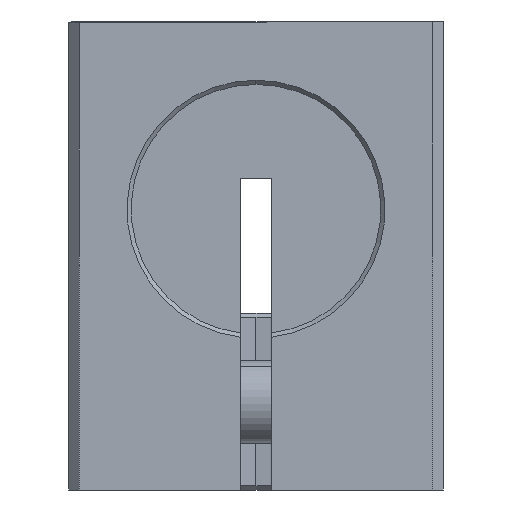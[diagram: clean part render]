
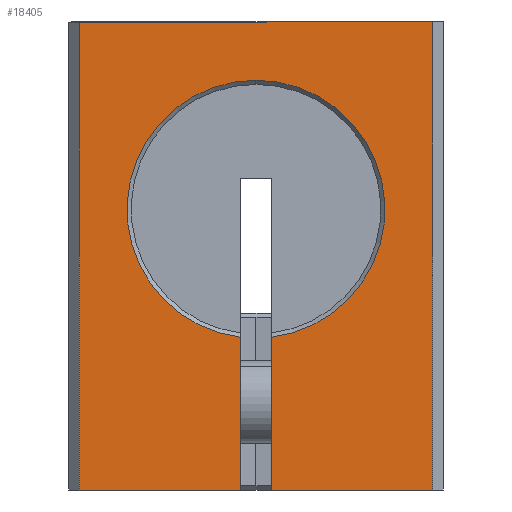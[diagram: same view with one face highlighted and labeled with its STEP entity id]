
A CAD part, left-side view. The second image highlights one B-rep face of the part: STEP entity #18405.
In plain terms, the highlighted planar face has unit normal (-1, 0, 0).
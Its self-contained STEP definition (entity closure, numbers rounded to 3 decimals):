
#376 = EDGE_CURVE ( 'NONE', #13811, #21831, #12449, .T. ) ;
#1350 = ORIENTED_EDGE ( 'NONE', *, *, #2427, .F. ) ;
#1533 = EDGE_LOOP ( 'NONE', ( #19402, #12796, #1350, #22497, #19995, #18095, #2517, #4738, #19495 ) ) ;
#1807 = LINE ( 'NONE', #13746, #14901 ) ;
#1812 = VERTEX_POINT ( 'NONE', #20764 ) ;
#2107 = CARTESIAN_POINT ( 'NONE',  ( -68.86, 24.01, -3.904 ) ) ;
#2406 = CARTESIAN_POINT ( 'NONE',  ( -68.86, 23.26, -11.25 ) ) ;
#2427 = EDGE_CURVE ( 'NONE', #17911, #1812, #20294, .T. ) ;
#2432 = VECTOR ( 'NONE', #7556, 1000. ) ;
#2517 = ORIENTED_EDGE ( 'NONE', *, *, #22848, .F. ) ;
#2518 = DIRECTION ( 'NONE',  ( 0., 0., 1. ) ) ;
#2558 = CARTESIAN_POINT ( 'NONE',  ( -68.86, 23.26, -11.25 ) ) ;
#2586 = DIRECTION ( 'NONE',  ( -1., 0., 0. ) ) ;
#2663 = CARTESIAN_POINT ( 'NONE',  ( -68.86, 23.26, 2.25 ) ) ;
#2736 = EDGE_CURVE ( 'NONE', #10519, #13023, #3966, .T. ) ;
#2777 = CIRCLE ( 'NONE', #8637, 6.2 ) ;
#3326 = CARTESIAN_POINT ( 'NONE',  ( -68.86, 22.51, -11.25 ) ) ;
#3490 = CARTESIAN_POINT ( 'NONE',  ( -68.86, 23.26, 8.45 ) ) ;
#3603 = VECTOR ( 'NONE', #18362, 1000. ) ;
#3966 = CIRCLE ( 'NONE', #4064, 6.2 ) ;
#4064 = AXIS2_PLACEMENT_3D ( 'NONE', #2663, #2586, #2518 ) ;
#4185 = CARTESIAN_POINT ( 'NONE',  ( -68.86, 23.26, 2.25 ) ) ;
#4221 = EDGE_CURVE ( 'NONE', #17911, #6787, #18050, .T. ) ;
#4231 = AXIS2_PLACEMENT_3D ( 'NONE', #6638, #19048, #8418 ) ;
#4405 = VECTOR ( 'NONE', #6159, 1000. ) ;
#4698 = CARTESIAN_POINT ( 'NONE',  ( -68.86, 31.76, -11.25 ) ) ;
#4738 = ORIENTED_EDGE ( 'NONE', *, *, #21460, .F. ) ;
#5324 = DIRECTION ( 'NONE',  ( 0., 0., -1. ) ) ;
#5362 = CARTESIAN_POINT ( 'NONE',  ( -68.86, 24.01, -11.25 ) ) ;
#5435 = DIRECTION ( 'NONE',  ( 0., 0., 1. ) ) ;
#5521 = CARTESIAN_POINT ( 'NONE',  ( -68.86, 14.76, 0. ) ) ;
#5708 = VERTEX_POINT ( 'NONE', #7199 ) ;
#5761 = CARTESIAN_POINT ( 'NONE',  ( -68.86, 22.51, 0. ) ) ;
#6014 = DIRECTION ( 'NONE',  ( 0., 0., 1. ) ) ;
#6159 = DIRECTION ( 'NONE',  ( 0., -1., 0. ) ) ;
#6638 = CARTESIAN_POINT ( 'NONE',  ( -68.86, 14.76, -11.25 ) ) ;
#6787 = VERTEX_POINT ( 'NONE', #5362 ) ;
#7057 = FACE_OUTER_BOUND ( 'NONE', #1533, .T. ) ;
#7199 = CARTESIAN_POINT ( 'NONE',  ( -68.86, 14.76, 11.25 ) ) ;
#7556 = DIRECTION ( 'NONE',  ( 0., 0., 1. ) ) ;
#7703 = VECTOR ( 'NONE', #14375, 1000. ) ;
#7708 = LINE ( 'NONE', #17769, #21861 ) ;
#8418 = DIRECTION ( 'NONE',  ( 0., 1., 0. ) ) ;
#8637 = AXIS2_PLACEMENT_3D ( 'NONE', #4185, #16634, #6014 ) ;
#10519 = VERTEX_POINT ( 'NONE', #3490 ) ;
#12414 = EDGE_CURVE ( 'NONE', #13023, #6787, #7708, .T. ) ;
#12449 = LINE ( 'NONE', #2406, #7703 ) ;
#12693 = VERTEX_POINT ( 'NONE', #18695 ) ;
#12796 = ORIENTED_EDGE ( 'NONE', *, *, #14530, .T. ) ;
#13023 = VERTEX_POINT ( 'NONE', #2107 ) ;
#13746 = CARTESIAN_POINT ( 'NONE',  ( -68.86, 23.26, 11.25 ) ) ;
#13811 = VERTEX_POINT ( 'NONE', #3326 ) ;
#13965 = EDGE_CURVE ( 'NONE', #21831, #5708, #15080, .T. ) ;
#14375 = DIRECTION ( 'NONE',  ( 0., -1., 0. ) ) ;
#14530 = EDGE_CURVE ( 'NONE', #5708, #1812, #1807, .T. ) ;
#14901 = VECTOR ( 'NONE', #22636, 1000. ) ;
#15080 = LINE ( 'NONE', #5521, #19230 ) ;
#16617 = LINE ( 'NONE', #5761, #2432 ) ;
#16634 = DIRECTION ( 'NONE',  ( -1., 0., 0. ) ) ;
#17769 = CARTESIAN_POINT ( 'NONE',  ( -68.86, 24.01, 0. ) ) ;
#17911 = VERTEX_POINT ( 'NONE', #4698 ) ;
#18050 = LINE ( 'NONE', #2558, #4405 ) ;
#18053 = CARTESIAN_POINT ( 'NONE',  ( -68.86, 31.76, 0. ) ) ;
#18095 = ORIENTED_EDGE ( 'NONE', *, *, #2736, .F. ) ;
#18362 = DIRECTION ( 'NONE',  ( 0., 0., 1. ) ) ;
#18405 = ADVANCED_FACE ( 'NONE', ( #7057 ), #22540, .F. ) ;
#18695 = CARTESIAN_POINT ( 'NONE',  ( -68.86, 22.51, -3.904 ) ) ;
#19048 = DIRECTION ( 'NONE',  ( 1., 0., 0. ) ) ;
#19230 = VECTOR ( 'NONE', #5435, 1000. ) ;
#19402 = ORIENTED_EDGE ( 'NONE', *, *, #13965, .T. ) ;
#19495 = ORIENTED_EDGE ( 'NONE', *, *, #376, .T. ) ;
#19995 = ORIENTED_EDGE ( 'NONE', *, *, #12414, .F. ) ;
#20294 = LINE ( 'NONE', #18053, #3603 ) ;
#20764 = CARTESIAN_POINT ( 'NONE',  ( -68.86, 31.76, 11.25 ) ) ;
#21460 = EDGE_CURVE ( 'NONE', #13811, #12693, #16617, .T. ) ;
#21831 = VERTEX_POINT ( 'NONE', #22582 ) ;
#21861 = VECTOR ( 'NONE', #5324, 1000. ) ;
#22497 = ORIENTED_EDGE ( 'NONE', *, *, #4221, .T. ) ;
#22540 = PLANE ( 'NONE',  #4231 ) ;
#22582 = CARTESIAN_POINT ( 'NONE',  ( -68.86, 14.76, -11.25 ) ) ;
#22636 = DIRECTION ( 'NONE',  ( 0., 1., 0. ) ) ;
#22848 = EDGE_CURVE ( 'NONE', #12693, #10519, #2777, .T. ) ;
